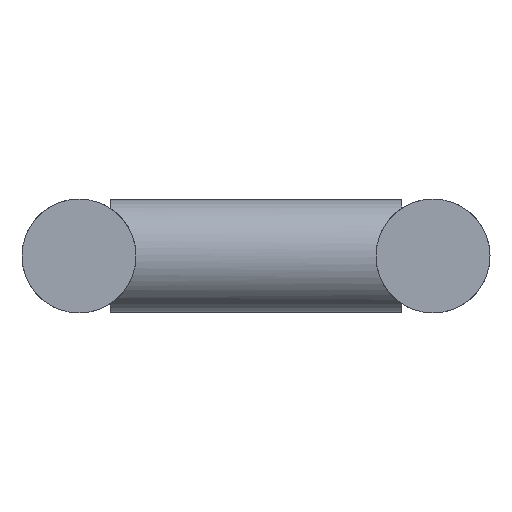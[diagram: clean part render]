
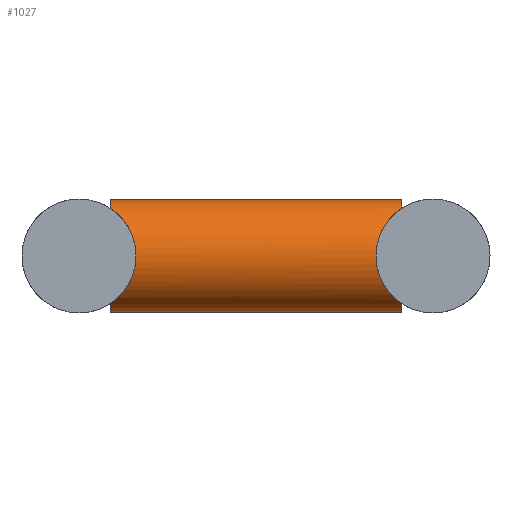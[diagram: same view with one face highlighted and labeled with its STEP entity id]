
A CAD part, left-side view. The second image highlights one B-rep face of the part: STEP entity #1027.
In plain terms, the highlighted cylindrical face has radius 24.15 mm (diameter 48.3 mm), a full revolution.
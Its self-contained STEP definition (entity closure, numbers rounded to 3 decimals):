
#38=FACE_BOUND('',#225,.T.);
#100=ELLIPSE('',#1128,34.153,24.15);
#101=ELLIPSE('',#1129,34.153,24.15);
#102=ELLIPSE('',#1130,34.153,24.15);
#103=ELLIPSE('',#1131,34.153,24.15);
#120=CYLINDRICAL_SURFACE('',#1127,24.15);
#158=FACE_OUTER_BOUND('',#224,.T.);
#224=EDGE_LOOP('',(#716,#717,#718,#719));
#225=EDGE_LOOP('',(#720,#721,#722,#723));
#324=CIRCLE('',#1120,24.15);
#325=CIRCLE('',#1122,24.15);
#326=CIRCLE('',#1124,24.15);
#327=CIRCLE('',#1126,24.15);
#452=VERTEX_POINT('',#1629);
#453=VERTEX_POINT('',#1630);
#454=VERTEX_POINT('',#1634);
#455=VERTEX_POINT('',#1635);
#456=VERTEX_POINT('',#1639);
#457=VERTEX_POINT('',#1640);
#458=VERTEX_POINT('',#1644);
#459=VERTEX_POINT('',#1645);
#565=EDGE_CURVE('',#452,#453,#324,.T.);
#567=EDGE_CURVE('',#454,#455,#325,.T.);
#569=EDGE_CURVE('',#456,#457,#326,.T.);
#571=EDGE_CURVE('',#458,#459,#327,.T.);
#572=EDGE_CURVE('',#455,#452,#100,.T.);
#573=EDGE_CURVE('',#453,#454,#101,.T.);
#574=EDGE_CURVE('',#459,#456,#102,.T.);
#575=EDGE_CURVE('',#457,#458,#103,.T.);
#716=ORIENTED_EDGE('',*,*,#572,.F.);
#717=ORIENTED_EDGE('',*,*,#567,.F.);
#718=ORIENTED_EDGE('',*,*,#573,.F.);
#719=ORIENTED_EDGE('',*,*,#565,.F.);
#720=ORIENTED_EDGE('',*,*,#574,.F.);
#721=ORIENTED_EDGE('',*,*,#571,.F.);
#722=ORIENTED_EDGE('',*,*,#575,.F.);
#723=ORIENTED_EDGE('',*,*,#569,.F.);
#1027=ADVANCED_FACE('',(#158,#38),#120,.T.);
#1120=AXIS2_PLACEMENT_3D('',#1632,#1334,#1335);
#1122=AXIS2_PLACEMENT_3D('',#1637,#1339,#1340);
#1124=AXIS2_PLACEMENT_3D('',#1642,#1344,#1345);
#1126=AXIS2_PLACEMENT_3D('',#1647,#1349,#1350);
#1127=AXIS2_PLACEMENT_3D('',#1648,#1351,#1352);
#1128=AXIS2_PLACEMENT_3D('',#1649,#1353,#1354);
#1129=AXIS2_PLACEMENT_3D('',#1650,#1355,#1356);
#1130=AXIS2_PLACEMENT_3D('',#1651,#1357,#1358);
#1131=AXIS2_PLACEMENT_3D('',#1652,#1359,#1360);
#1334=DIRECTION('center_axis',(0.,-1.,0.));
#1335=DIRECTION('ref_axis',(1.,0.,0.));
#1339=DIRECTION('center_axis',(0.,-1.,0.));
#1340=DIRECTION('ref_axis',(1.,0.,0.));
#1344=DIRECTION('center_axis',(0.,1.,0.));
#1345=DIRECTION('ref_axis',(1.,0.,0.));
#1349=DIRECTION('center_axis',(0.,1.,0.));
#1350=DIRECTION('ref_axis',(1.,0.,0.));
#1351=DIRECTION('center_axis',(0.,-1.,0.));
#1352=DIRECTION('ref_axis',(1.,0.,0.));
#1353=DIRECTION('center_axis',(0.707,-0.707,0.));
#1354=DIRECTION('ref_axis',(0.707,0.707,0.));
#1355=DIRECTION('center_axis',(-0.707,-0.707,0.));
#1356=DIRECTION('ref_axis',(0.707,-0.707,0.));
#1357=DIRECTION('center_axis',(-0.707,0.707,0.));
#1358=DIRECTION('ref_axis',(0.707,0.707,0.));
#1359=DIRECTION('center_axis',(0.707,0.707,0.));
#1360=DIRECTION('ref_axis',(0.707,-0.707,0.));
#1629=CARTESIAN_POINT('',(89.3,-61.85,20.256));
#1630=CARTESIAN_POINT('',(63.,-61.85,20.256));
#1632=CARTESIAN_POINT('Origin',(76.15,-61.85,0.));
#1634=CARTESIAN_POINT('',(63.,-61.85,-20.256));
#1635=CARTESIAN_POINT('',(89.3,-61.85,-20.256));
#1637=CARTESIAN_POINT('Origin',(76.15,-61.85,0.));
#1639=CARTESIAN_POINT('',(63.,61.85,20.256));
#1640=CARTESIAN_POINT('',(89.3,61.85,20.256));
#1642=CARTESIAN_POINT('Origin',(76.15,61.85,0.));
#1644=CARTESIAN_POINT('',(89.3,61.85,-20.256));
#1645=CARTESIAN_POINT('',(63.,61.85,-20.256));
#1647=CARTESIAN_POINT('Origin',(76.15,61.85,0.));
#1648=CARTESIAN_POINT('Origin',(76.15,61.85,0.));
#1649=CARTESIAN_POINT('Origin',(76.15,-75.,0.));
#1650=CARTESIAN_POINT('Origin',(76.15,-75.,0.));
#1651=CARTESIAN_POINT('Origin',(76.15,75.,0.));
#1652=CARTESIAN_POINT('Origin',(76.15,75.,0.));
